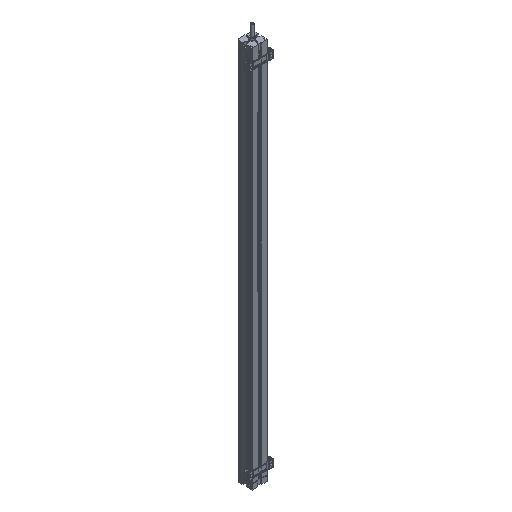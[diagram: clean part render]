
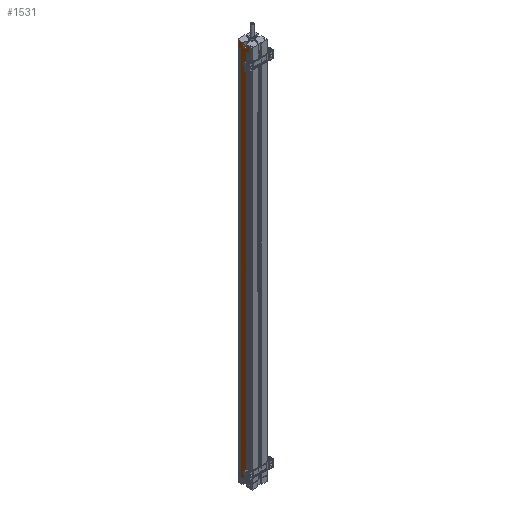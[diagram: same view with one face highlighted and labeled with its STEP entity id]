
A CAD part, isometric view. The second image highlights one B-rep face of the part: STEP entity #1531.
In plain terms, the highlighted planar face has unit normal (-1, 0, 0).
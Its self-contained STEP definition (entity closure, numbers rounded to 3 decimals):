
#1531=ADVANCED_FACE('',(#3333),#3334,.T.);
#3333=FACE_OUTER_BOUND('',#5496,.T.);
#3334=PLANE('',#5497);
#5496=EDGE_LOOP('',(#9912,#9913,#9914,#9915,#9916,#9917,#9918,#9919,#9920,#9921,#9922,#9923,#9924,#9925,#9926,#9927));
#5497=AXIS2_PLACEMENT_3D('',#9928,#9929,#9930);
#9912=ORIENTED_EDGE('',*,*,#13821,.F.);
#9913=ORIENTED_EDGE('',*,*,#13824,.T.);
#9914=ORIENTED_EDGE('',*,*,#13825,.T.);
#9915=ORIENTED_EDGE('',*,*,#13826,.T.);
#9916=ORIENTED_EDGE('',*,*,#13827,.F.);
#9917=ORIENTED_EDGE('',*,*,#13828,.T.);
#9918=ORIENTED_EDGE('',*,*,#13829,.T.);
#9919=ORIENTED_EDGE('',*,*,#13830,.T.);
#9920=ORIENTED_EDGE('',*,*,#13831,.F.);
#9921=ORIENTED_EDGE('',*,*,#13832,.T.);
#9922=ORIENTED_EDGE('',*,*,#13833,.T.);
#9923=ORIENTED_EDGE('',*,*,#13834,.F.);
#9924=ORIENTED_EDGE('',*,*,#13835,.F.);
#9925=ORIENTED_EDGE('',*,*,#13836,.F.);
#9926=ORIENTED_EDGE('',*,*,#13837,.T.);
#9927=ORIENTED_EDGE('',*,*,#13838,.F.);
#9928=CARTESIAN_POINT('',(0.0,27.0,-136.5));
#9929=DIRECTION('',(-1.0,0.0,0.0));
#9930=DIRECTION('',(0.0,0.0,1.0));
#13821=EDGE_CURVE('',#16877,#16879,#16880,.T.);
#13824=EDGE_CURVE('',#16877,#16883,#16884,.T.);
#13825=EDGE_CURVE('',#16883,#16885,#16886,.T.);
#13826=EDGE_CURVE('',#16885,#16887,#16888,.T.);
#13827=EDGE_CURVE('',#16889,#16887,#16890,.T.);
#13828=EDGE_CURVE('',#16889,#16891,#16892,.T.);
#13829=EDGE_CURVE('',#16891,#16893,#16894,.T.);
#13830=EDGE_CURVE('',#16893,#16895,#16896,.T.);
#13831=EDGE_CURVE('',#16897,#16895,#16898,.T.);
#13832=EDGE_CURVE('',#16897,#16899,#16900,.T.);
#13833=EDGE_CURVE('',#16899,#16901,#16902,.T.);
#13834=EDGE_CURVE('',#16903,#16901,#16904,.T.);
#13835=EDGE_CURVE('',#16905,#16903,#16906,.T.);
#13836=EDGE_CURVE('',#16907,#16905,#16908,.T.);
#13837=EDGE_CURVE('',#16907,#16909,#16910,.T.);
#13838=EDGE_CURVE('',#16879,#16909,#16911,.T.);
#16877=VERTEX_POINT('',#21165);
#16879=VERTEX_POINT('',#21167);
#16880=LINE('',#21168,#21169);
#16883=VERTEX_POINT('',#21172);
#16884=LINE('',#21173,#21174);
#16885=VERTEX_POINT('',#21175);
#16886=LINE('',#21176,#21177);
#16887=VERTEX_POINT('',#21178);
#16888=LINE('',#21179,#21180);
#16889=VERTEX_POINT('',#21181);
#16890=LINE('',#21182,#21183);
#16891=VERTEX_POINT('',#21184);
#16892=LINE('',#21185,#21186);
#16893=VERTEX_POINT('',#21187);
#16894=LINE('',#21188,#21189);
#16895=VERTEX_POINT('',#21190);
#16896=LINE('',#21191,#21192);
#16897=VERTEX_POINT('',#21193);
#16898=LINE('',#21194,#21195);
#16899=VERTEX_POINT('',#21196);
#16900=LINE('',#21197,#21198);
#16901=VERTEX_POINT('',#21199);
#16902=LINE('',#21200,#21201);
#16903=VERTEX_POINT('',#21202);
#16904=LINE('',#21203,#21204);
#16905=VERTEX_POINT('',#21205);
#16906=LINE('',#21206,#21207);
#16907=VERTEX_POINT('',#21208);
#16908=LINE('',#21209,#21210);
#16909=VERTEX_POINT('',#21211);
#16910=LINE('',#21212,#21213);
#16911=LINE('',#21214,#21215);
#21165=CARTESIAN_POINT('',(0.0,29.5,-136.5));
#21167=CARTESIAN_POINT('',(0.,29.5,678.3));
#21168=CARTESIAN_POINT('',(0.0,29.5,-136.5));
#21169=VECTOR('',#24859,814.8);
#21172=CARTESIAN_POINT('',(0.0,27.0,-136.5));
#21173=CARTESIAN_POINT('',(0.0,29.5,-136.5));
#21174=VECTOR('',#24863,2.5);
#21175=CARTESIAN_POINT('',(0.0,27.0,664.0));
#21176=CARTESIAN_POINT('',(0.0,27.0,-136.5));
#21177=VECTOR('',#24864,800.5);
#21178=CARTESIAN_POINT('',(0.0,24.4,664.0));
#21179=CARTESIAN_POINT('',(0.,27.0,664.0));
#21180=VECTOR('',#24865,2.6);
#21181=CARTESIAN_POINT('',(0.0,24.4,-136.5));
#21182=CARTESIAN_POINT('',(0.0,24.4,-136.5));
#21183=VECTOR('',#24866,800.5);
#21184=CARTESIAN_POINT('',(0.0,11.6,-136.5));
#21185=CARTESIAN_POINT('',(0.0,24.4,-136.5));
#21186=VECTOR('',#24867,12.8);
#21187=CARTESIAN_POINT('',(0.0,11.6,664.0));
#21188=CARTESIAN_POINT('',(0.0,11.6,-136.5));
#21189=VECTOR('',#24868,800.5);
#21190=CARTESIAN_POINT('',(0.0,9.,664.0));
#21191=CARTESIAN_POINT('',(0.,11.6,664.0));
#21192=VECTOR('',#24869,2.6);
#21193=CARTESIAN_POINT('',(0.0,9.0,-136.5));
#21194=CARTESIAN_POINT('',(0.0,9.0,-136.5));
#21195=VECTOR('',#24870,800.5);
#21196=CARTESIAN_POINT('',(0.0,6.0,-136.5));
#21197=CARTESIAN_POINT('',(0.0,9.0,-136.5));
#21198=VECTOR('',#24871,3.0);
#21199=CARTESIAN_POINT('',(0.,6.,678.3));
#21200=CARTESIAN_POINT('',(0.0,6.0,-136.5));
#21201=VECTOR('',#24872,814.8);
#21202=CARTESIAN_POINT('',(0.,13.25,678.3));
#21203=CARTESIAN_POINT('',(0.,13.25,678.3));
#21204=VECTOR('',#24873,7.25);
#21205=CARTESIAN_POINT('',(0.,13.25,670.0));
#21206=CARTESIAN_POINT('',(0.,13.25,670.0));
#21207=VECTOR('',#24874,8.3);
#21208=CARTESIAN_POINT('',(0.,19.75,670.0));
#21209=CARTESIAN_POINT('',(0.,19.75,670.0));
#21210=VECTOR('',#24875,6.5);
#21211=CARTESIAN_POINT('',(0.,19.75,678.3));
#21212=CARTESIAN_POINT('',(0.,19.75,670.0));
#21213=VECTOR('',#24876,8.3);
#21214=CARTESIAN_POINT('',(0.,29.5,678.3));
#21215=VECTOR('',#24877,9.75);
#24859=DIRECTION('',(0.0,0.0,1.0));
#24863=DIRECTION('',(0.0,-1.0,0.0));
#24864=DIRECTION('',(0.0,0.0,1.0));
#24865=DIRECTION('',(0.0,-1.0,0.0));
#24866=DIRECTION('',(0.0,0.0,1.0));
#24867=DIRECTION('',(0.0,-1.0,0.0));
#24868=DIRECTION('',(0.0,0.0,1.0));
#24869=DIRECTION('',(0.0,-1.0,0.0));
#24870=DIRECTION('',(0.0,0.0,1.0));
#24871=DIRECTION('',(0.0,-1.0,0.0));
#24872=DIRECTION('',(0.0,0.0,1.0));
#24873=DIRECTION('',(0.0,-1.0,0.0));
#24874=DIRECTION('',(0.0,0.0,1.0));
#24875=DIRECTION('',(0.0,-1.0,0.0));
#24876=DIRECTION('',(0.0,0.0,1.0));
#24877=DIRECTION('',(0.0,-1.0,0.0));
